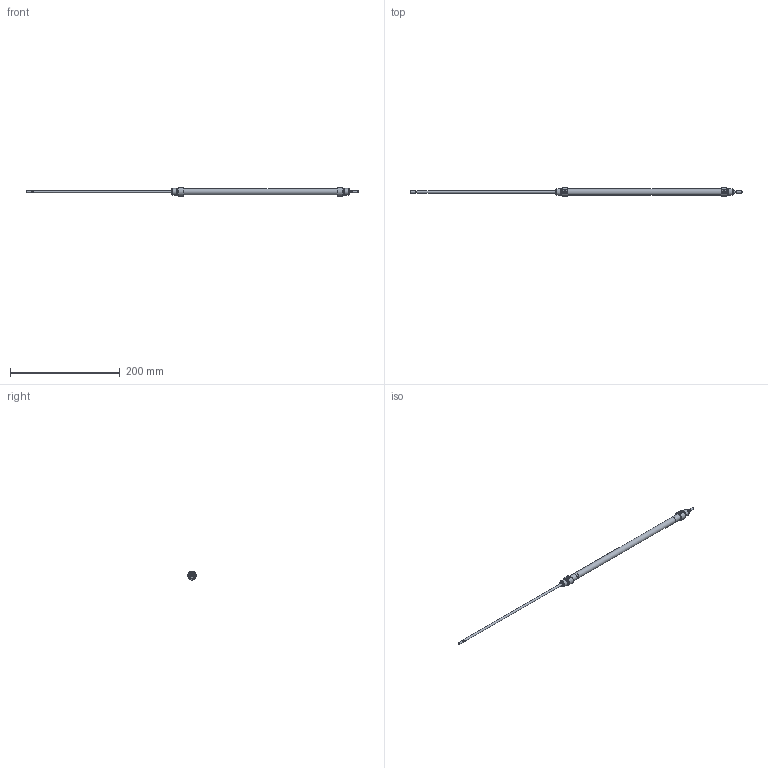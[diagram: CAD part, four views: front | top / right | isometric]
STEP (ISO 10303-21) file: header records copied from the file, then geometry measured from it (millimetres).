
FILE_DESCRIPTION( ( 'STEP AP203' ), '1' );
FILE_NAME( '//expscmdclustefs.cadenas.external/client_exchange/iodir/jobs/output/wkb68274715_no0/STEP/M101-010-0250-M__0__2_03.stp', ' ', ( ' ' ), ( ' ' ), 'PSStep 15.0.47', 'PARTsolutions', ' ' );
FILE_SCHEMA( ( 'CONFIG_CONTROL_DESIGN' ) );
Length unit declared in the file: millimetre
Products named in the file (3): M101-010-0250-M [0]; HI_M101-010-0250-M-[0]-z; HI_M101-010-0250-M-[0]-k
Assembly tree (2 placements, depth 2):
  M101-010-0250-M [0]
    HI_M101-010-0250-M-[0]-z
    HI_M101-010-0250-M-[0]-k
Bounding box: 606 x 15.77 x 14.87 mm (x, y, z)
Volume: 21330 mm3; surface area: 29290.9 mm2
Topology: 2 solids, 2 shells, 71 faces, 145 edges, 88 vertices
Faces by surface type: plane 32, cylinder 23, cone 14, torus 2
Full cylindrical faces by diameter (mm): 3.141 x2, 4 x6, 4.134 x2, 10 x2, 10.466 x4, 11.3 x1, 12 x4
Entity records: 1838 total; most frequent: CARTESIAN_POINT 358, DIRECTION 312, ORIENTED_EDGE 212, AXIS2_PLACEMENT_3D 140, EDGE_LOOP 120, EDGE_CURVE 106, FACE_OUTER_BOUND 94, VERTEX_POINT 82
